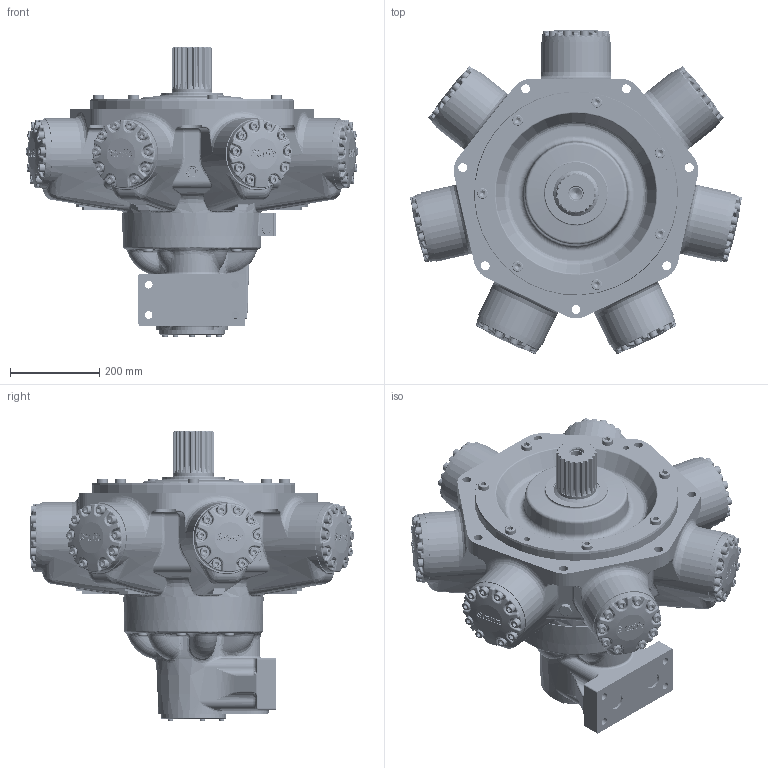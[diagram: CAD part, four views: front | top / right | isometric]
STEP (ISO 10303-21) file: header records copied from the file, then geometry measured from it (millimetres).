
FILE_DESCRIPTION(/* description */ (''),/* implementation_level */ '2;1');
FILE_NAME(/* name */ 'HMC325_Z4_SM4_C.stp',/* time_stamp */ '2025-06-12T16:26:25+01:00',/* author */ ('ccallanga'),/* organization */ (''),/* preprocessor_version */ 'ST-DEVELOPER v20',/* originating_system */ 'Autodesk Inventor 2024',/* authorisation */ '');
FILE_SCHEMA (('AUTOMOTIVE_DESIGN { 1 0 10303 214 3 1 1 }'));
Products named in the file (1): 017753 HMC325 Web Assembly_Simplify_1
Bounding box: 744.35 x 728.18 x 648.79 mm (x, y, z)
Volume: 75855471 mm3; surface area: 1763130.6 mm2
Topology: 1 solids, 1 shells, 6221 faces, 15131 edges, 8945 vertices
Faces by surface type: bspline 2360, plane 1691, cylinder 1311, torus 523, cone 174, sphere 162
Full cylindrical faces by diameter (mm): 4 x1, 4.134 x4, 5 x4, 5.5 x4, 6.05 x2, 11.913 x5, 12.7 x5, 14.351 x2, 16.51 x1, 17 x4, 19 x1, 19.05 x70, 20 x7, 20.637 x70, 23.825 x14, 25 x5, 25.4 x14, 26.211 x1, 26.92 x2, 30.48 x1, 38 x2, 38.1 x3, 90 x1, 101.575 x1, 106.68 x1, 139.7 x1, 146.05 x1, 311 x1, 311.15 x1, 457.11 x1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
Entity records: 279710 total; most frequent: CARTESIAN_POINT 145818, ORIENTED_EDGE 29708, DIRECTION 21323, EDGE_CURVE 14854, VERTEX_POINT 8945, AXIS2_PLACEMENT_3D 8313, EDGE_LOOP 6553, STYLED_ITEM 6222
